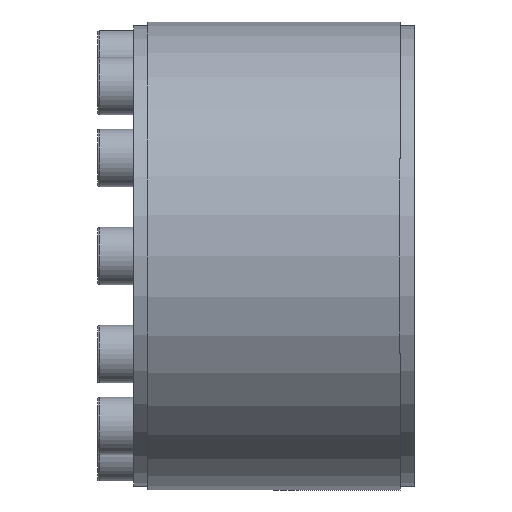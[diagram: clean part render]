
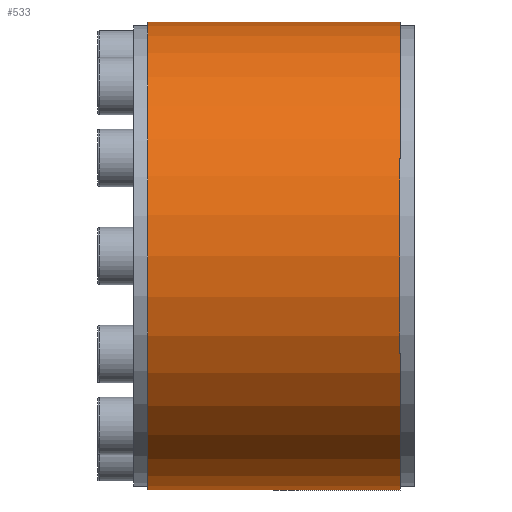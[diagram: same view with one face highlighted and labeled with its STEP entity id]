
A CAD part, left-side view. The second image highlights one B-rep face of the part: STEP entity #533.
In plain terms, the highlighted cylindrical face has radius 65 mm (diameter 130 mm), a partial arc.
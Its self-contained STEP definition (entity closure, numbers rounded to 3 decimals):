
#128 = DIRECTION ( 'NONE',  ( 0., -1., 0. ) ) ;
#361 = CARTESIAN_POINT ( 'NONE',  ( 0., 0., -65. ) ) ;
#370 = CARTESIAN_POINT ( 'NONE',  ( 0., -35., 0. ) ) ;
#509 = CARTESIAN_POINT ( 'NONE',  ( 0., -35., -65. ) ) ;
#533 = ADVANCED_FACE ( 'NONE', ( #563 ), #940, .T. ) ;
#545 = ORIENTED_EDGE ( 'NONE', *, *, #823, .T. ) ;
#563 = FACE_OUTER_BOUND ( 'NONE', #960, .T. ) ;
#681 = DIRECTION ( 'NONE',  ( 0., -1., 0. ) ) ;
#717 = DIRECTION ( 'NONE',  ( 0., -1., 0. ) ) ;
#823 = EDGE_CURVE ( 'NONE', #1032, #1885, #3539, .T. ) ;
#878 = VECTOR ( 'NONE', #128, 1000. ) ;
#940 = CYLINDRICAL_SURFACE ( 'NONE', #1927, 65. ) ;
#960 = EDGE_LOOP ( 'NONE', ( #3184, #545, #2268, #2453 ) ) ;
#981 = DIRECTION ( 'NONE',  ( 0., 0., -1. ) ) ;
#1032 = VERTEX_POINT ( 'NONE', #3508 ) ;
#1128 = EDGE_CURVE ( 'NONE', #1032, #2007, #1814, .T. ) ;
#1142 = AXIS2_PLACEMENT_3D ( 'NONE', #370, #717, #2096 ) ;
#1180 = CARTESIAN_POINT ( 'NONE',  ( 0., 0., 65. ) ) ;
#1350 = CARTESIAN_POINT ( 'NONE',  ( 0., 0., 0. ) ) ;
#1446 = EDGE_CURVE ( 'NONE', #2007, #4304, #3639, .T. ) ;
#1814 = LINE ( 'NONE', #1180, #878 ) ;
#1885 = VERTEX_POINT ( 'NONE', #4401 ) ;
#1894 = AXIS2_PLACEMENT_3D ( 'NONE', #3063, #1974, #981 ) ;
#1927 = AXIS2_PLACEMENT_3D ( 'NONE', #1350, #681, #2766 ) ;
#1974 = DIRECTION ( 'NONE',  ( 0., -1., 0. ) ) ;
#2007 = VERTEX_POINT ( 'NONE', #3416 ) ;
#2096 = DIRECTION ( 'NONE',  ( 0., 0., -1. ) ) ;
#2268 = ORIENTED_EDGE ( 'NONE', *, *, #2542, .T. ) ;
#2453 = ORIENTED_EDGE ( 'NONE', *, *, #1446, .F. ) ;
#2542 = EDGE_CURVE ( 'NONE', #1885, #4304, #3846, .T. ) ;
#2766 = DIRECTION ( 'NONE',  ( 0., 0., -1. ) ) ;
#3045 = VECTOR ( 'NONE', #4163, 1000. ) ;
#3063 = CARTESIAN_POINT ( 'NONE',  ( 0., 35., 0. ) ) ;
#3184 = ORIENTED_EDGE ( 'NONE', *, *, #1128, .F. ) ;
#3416 = CARTESIAN_POINT ( 'NONE',  ( 0., -35., 65. ) ) ;
#3508 = CARTESIAN_POINT ( 'NONE',  ( 0., 35., 65. ) ) ;
#3539 = CIRCLE ( 'NONE', #1894, 65. ) ;
#3639 = CIRCLE ( 'NONE', #1142, 65. ) ;
#3846 = LINE ( 'NONE', #361, #3045 ) ;
#4163 = DIRECTION ( 'NONE',  ( 0., -1., 0. ) ) ;
#4304 = VERTEX_POINT ( 'NONE', #509 ) ;
#4401 = CARTESIAN_POINT ( 'NONE',  ( 0., 35., -65. ) ) ;
